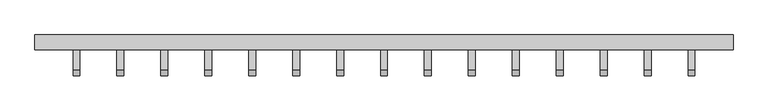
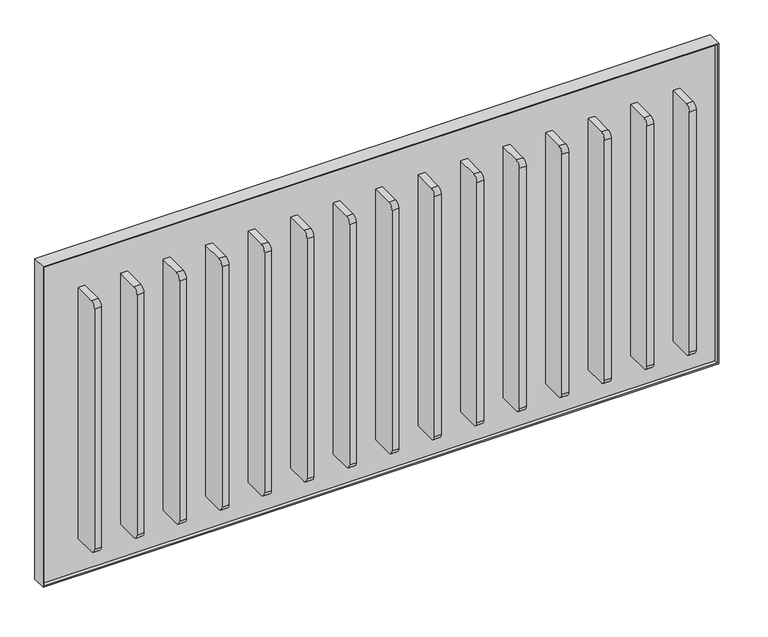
"""IFC4 building model written with IfcOpenShell, lengths in millimetres: proxy geometry, Frame_Cascade 11.3dm."""

from ifc_helpers import new_model, si_unit, point, frame, frame_2d, origin, place, context, project, spatial, polyline, circle_curve, trimmed, segment, composite_curve, outline, extrude, source, transform, mapped, element, save


def generic_models_37f9fb91(model_context):
    return source(origin(), model_context, "Body", "SweptSolid", [
        extrude(outline(polyline([(692.3576084, 2035.9814902), (1296.3576084, 2035.9814902), (1296.3576084, 831.9814902), (692.3576084, 831.9814902), (692.3576084, 2035.9814902)]), holes=[polyline([(694.3576084, 2033.9814902), (694.3576084, 833.9814902), (1294.3576084, 833.9814902), (1294.3576084, 2033.9814902), (694.3576084, 2033.9814902)])]), frame((0.0, 107.5568681, 0.0), z_axis=(0.0, 1.0, 0.0), x_axis=(0.0, 0.0, 1.0)), (0.0, 0.0, 1.0), 25.4),
        extrude(outline(polyline([(2033.9814902, 114.2568681), (833.9814902, 114.2568681), (833.9814902, 126.2568681), (2033.9814902, 126.2568681), (2033.9814902, 114.2568681)])), frame((0.0, 0.0, 694.3576084), z_axis=(0.0, 0.0, 1.0), x_axis=(1.0, 0.0, 0.0)), (0.0, 0.0, 1.0), 600.0),
        extrude(outline(composite_curve([segment(trimmed(circle_curve(frame_2d((72.7568681, 768.1076084)), 10.0), [point((72.7568681, 758.1076084))], [point((62.7568681, 768.1076084))], False, "CARTESIAN"), True, "CONTINUOUS"), segment(polyline([(62.7568681, 768.1076084), (62.7568681, 1220.6076084)]), True, "CONTINUOUS"), segment(trimmed(circle_curve(frame_2d((72.7568681, 1220.6076084)), 10.0), [point((62.7568681, 1220.6076084))], [point((72.7568681, 1230.6076084))], False, "CARTESIAN"), True, "CONTINUOUS"), segment(polyline([(72.7568681, 1230.6076084), (114.2568681, 1230.6076084), (114.2568681, 758.1076084), (72.7568681, 758.1076084)]), True, "CONTINUOUS")], self_intersect=False)), frame((1200.7314902, 0.0, 0.0), z_axis=(1.0, 0.0, 0.0), x_axis=(0.0, 1.0, 0.0)), (0.0, 0.0, 1.0), 12.0),
        extrude(outline(composite_curve([segment(trimmed(circle_curve(frame_2d((72.7568681, 768.1076084)), 10.0), [point((72.7568681, 758.1076084))], [point((62.7568681, 768.1076084))], False, "CARTESIAN"), True, "CONTINUOUS"), segment(polyline([(62.7568681, 768.1076084), (62.7568681, 1220.6076084)]), True, "CONTINUOUS"), segment(trimmed(circle_curve(frame_2d((72.7568681, 1220.6076084)), 10.0), [point((62.7568681, 1220.6076084))], [point((72.7568681, 1230.6076084))], False, "CARTESIAN"), True, "CONTINUOUS"), segment(polyline([(72.7568681, 1230.6076084), (114.2568681, 1230.6076084), (114.2568681, 758.1076084), (72.7568681, 758.1076084)]), True, "CONTINUOUS")], self_intersect=False)), frame((1579.4814902, 0.0, 0.0), z_axis=(1.0, 0.0, 0.0), x_axis=(0.0, 1.0, 0.0)), (0.0, 0.0, 1.0), 12.0),
        extrude(outline(composite_curve([segment(trimmed(circle_curve(frame_2d((72.7568681, 768.1076084)), 10.0), [point((72.7568681, 758.1076084))], [point((62.7568681, 768.1076084))], False, "CARTESIAN"), True, "CONTINUOUS"), segment(polyline([(62.7568681, 768.1076084), (62.7568681, 1220.6076084)]), True, "CONTINUOUS"), segment(trimmed(circle_curve(frame_2d((72.7568681, 1220.6076084)), 10.0), [point((62.7568681, 1220.6076084))], [point((72.7568681, 1230.6076084))], False, "CARTESIAN"), True, "CONTINUOUS"), segment(polyline([(72.7568681, 1230.6076084), (114.2568681, 1230.6076084), (114.2568681, 758.1076084), (72.7568681, 758.1076084)]), True, "CONTINUOUS")], self_intersect=False)), frame((1958.2314902, 0.0, 0.0), z_axis=(1.0, 0.0, 0.0), x_axis=(0.0, 1.0, 0.0)), (0.0, 0.0, 1.0), 12.0),
        extrude(outline(composite_curve([segment(trimmed(circle_curve(frame_2d((72.7568681, 768.1076084)), 10.0), [point((72.7568681, 758.1076084))], [point((62.7568681, 768.1076084))], False, "CARTESIAN"), True, "CONTINUOUS"), segment(polyline([(62.7568681, 768.1076084), (62.7568681, 1220.6076084)]), True, "CONTINUOUS"), segment(trimmed(circle_curve(frame_2d((72.7568681, 1220.6076084)), 10.0), [point((62.7568681, 1220.6076084))], [point((72.7568681, 1230.6076084))], False, "CARTESIAN"), True, "CONTINUOUS"), segment(polyline([(72.7568681, 1230.6076084), (114.2568681, 1230.6076084), (114.2568681, 758.1076084), (72.7568681, 758.1076084)]), True, "CONTINUOUS")], self_intersect=False)), frame((1124.9814902, 0.0, 0.0), z_axis=(1.0, 0.0, 0.0), x_axis=(0.0, 1.0, 0.0)), (0.0, 0.0, 1.0), 12.0),
        extrude(outline(composite_curve([segment(trimmed(circle_curve(frame_2d((72.7568681, 768.1076084)), 10.0), [point((72.7568681, 758.1076084))], [point((62.7568681, 768.1076084))], False, "CARTESIAN"), True, "CONTINUOUS"), segment(polyline([(62.7568681, 768.1076084), (62.7568681, 1220.6076084)]), True, "CONTINUOUS"), segment(trimmed(circle_curve(frame_2d((72.7568681, 1220.6076084)), 10.0), [point((62.7568681, 1220.6076084))], [point((72.7568681, 1230.6076084))], False, "CARTESIAN"), True, "CONTINUOUS"), segment(polyline([(72.7568681, 1230.6076084), (114.2568681, 1230.6076084), (114.2568681, 758.1076084), (72.7568681, 758.1076084)]), True, "CONTINUOUS")], self_intersect=False)), frame((1503.7314902, 0.0, 0.0), z_axis=(1.0, 0.0, 0.0), x_axis=(0.0, 1.0, 0.0)), (0.0, 0.0, 1.0), 12.0),
        extrude(outline(composite_curve([segment(trimmed(circle_curve(frame_2d((72.7568681, 768.1076084)), 10.0), [point((72.7568681, 758.1076084))], [point((62.7568681, 768.1076084))], False, "CARTESIAN"), True, "CONTINUOUS"), segment(polyline([(62.7568681, 768.1076084), (62.7568681, 1220.6076084)]), True, "CONTINUOUS"), segment(trimmed(circle_curve(frame_2d((72.7568681, 1220.6076084)), 10.0), [point((62.7568681, 1220.6076084))], [point((72.7568681, 1230.6076084))], False, "CARTESIAN"), True, "CONTINUOUS"), segment(polyline([(72.7568681, 1230.6076084), (114.2568681, 1230.6076084), (114.2568681, 758.1076084), (72.7568681, 758.1076084)]), True, "CONTINUOUS")], self_intersect=False)), frame((1730.9814902, 0.0, 0.0), z_axis=(1.0, 0.0, 0.0), x_axis=(0.0, 1.0, 0.0)), (0.0, 0.0, 1.0), 12.0),
        extrude(outline(composite_curve([segment(trimmed(circle_curve(frame_2d((72.7568681, 768.1076084)), 10.0), [point((72.7568681, 758.1076084))], [point((62.7568681, 768.1076084))], False, "CARTESIAN"), True, "CONTINUOUS"), segment(polyline([(62.7568681, 768.1076084), (62.7568681, 1220.6076084)]), True, "CONTINUOUS"), segment(trimmed(circle_curve(frame_2d((72.7568681, 1220.6076084)), 10.0), [point((62.7568681, 1220.6076084))], [point((72.7568681, 1230.6076084))], False, "CARTESIAN"), True, "CONTINUOUS"), segment(polyline([(72.7568681, 1230.6076084), (114.2568681, 1230.6076084), (114.2568681, 758.1076084), (72.7568681, 758.1076084)]), True, "CONTINUOUS")], self_intersect=False)), frame((1655.2314902, 0.0, 0.0), z_axis=(1.0, 0.0, 0.0), x_axis=(0.0, 1.0, 0.0)), (0.0, 0.0, 1.0), 12.0),
        extrude(outline(composite_curve([segment(trimmed(circle_curve(frame_2d((72.7568681, 768.1076084)), 10.0), [point((72.7568681, 758.1076084))], [point((62.7568681, 768.1076084))], False, "CARTESIAN"), True, "CONTINUOUS"), segment(polyline([(62.7568681, 768.1076084), (62.7568681, 1220.6076084)]), True, "CONTINUOUS"), segment(trimmed(circle_curve(frame_2d((72.7568681, 1220.6076084)), 10.0), [point((62.7568681, 1220.6076084))], [point((72.7568681, 1230.6076084))], False, "CARTESIAN"), True, "CONTINUOUS"), segment(polyline([(72.7568681, 1230.6076084), (114.2568681, 1230.6076084), (114.2568681, 758.1076084), (72.7568681, 758.1076084)]), True, "CONTINUOUS")], self_intersect=False)), frame((1352.2314902, 0.0, 0.0), z_axis=(1.0, 0.0, 0.0), x_axis=(0.0, 1.0, 0.0)), (0.0, 0.0, 1.0), 12.0),
        extrude(outline(composite_curve([segment(trimmed(circle_curve(frame_2d((72.7568681, 768.1076084)), 10.0), [point((72.7568681, 758.1076084))], [point((62.7568681, 768.1076084))], False, "CARTESIAN"), True, "CONTINUOUS"), segment(polyline([(62.7568681, 768.1076084), (62.7568681, 1220.6076084)]), True, "CONTINUOUS"), segment(trimmed(circle_curve(frame_2d((72.7568681, 1220.6076084)), 10.0), [point((62.7568681, 1220.6076084))], [point((72.7568681, 1230.6076084))], False, "CARTESIAN"), True, "CONTINUOUS"), segment(polyline([(72.7568681, 1230.6076084), (114.2568681, 1230.6076084), (114.2568681, 758.1076084), (72.7568681, 758.1076084)]), True, "CONTINUOUS")], self_intersect=False)), frame((973.4814902, 0.0, 0.0), z_axis=(1.0, 0.0, 0.0), x_axis=(0.0, 1.0, 0.0)), (0.0, 0.0, 1.0), 12.0),
        extrude(outline(composite_curve([segment(trimmed(circle_curve(frame_2d((72.7568681, 768.1076084)), 10.0), [point((72.7568681, 758.1076084))], [point((62.7568681, 768.1076084))], False, "CARTESIAN"), True, "CONTINUOUS"), segment(polyline([(62.7568681, 768.1076084), (62.7568681, 1220.6076084)]), True, "CONTINUOUS"), segment(trimmed(circle_curve(frame_2d((72.7568681, 1220.6076084)), 10.0), [point((62.7568681, 1220.6076084))], [point((72.7568681, 1230.6076084))], False, "CARTESIAN"), True, "CONTINUOUS"), segment(polyline([(72.7568681, 1230.6076084), (114.2568681, 1230.6076084), (114.2568681, 758.1076084), (72.7568681, 758.1076084)]), True, "CONTINUOUS")], self_intersect=False)), frame((1276.4814902, 0.0, 0.0), z_axis=(1.0, 0.0, 0.0), x_axis=(0.0, 1.0, 0.0)), (0.0, 0.0, 1.0), 12.0),
        extrude(outline(composite_curve([segment(trimmed(circle_curve(frame_2d((72.7568681, 768.1076084)), 10.0), [point((72.7568681, 758.1076084))], [point((62.7568681, 768.1076084))], False, "CARTESIAN"), True, "CONTINUOUS"), segment(polyline([(62.7568681, 768.1076084), (62.7568681, 1220.6076084)]), True, "CONTINUOUS"), segment(trimmed(circle_curve(frame_2d((72.7568681, 1220.6076084)), 10.0), [point((62.7568681, 1220.6076084))], [point((72.7568681, 1230.6076084))], False, "CARTESIAN"), True, "CONTINUOUS"), segment(polyline([(72.7568681, 1230.6076084), (114.2568681, 1230.6076084), (114.2568681, 758.1076084), (72.7568681, 758.1076084)]), True, "CONTINUOUS")], self_intersect=False)), frame((1049.2314902, 0.0, 0.0), z_axis=(1.0, 0.0, 0.0), x_axis=(0.0, 1.0, 0.0)), (0.0, 0.0, 1.0), 12.0),
        extrude(outline(composite_curve([segment(trimmed(circle_curve(frame_2d((72.7568681, 768.1076084)), 10.0), [point((72.7568681, 758.1076084))], [point((62.7568681, 768.1076084))], False, "CARTESIAN"), True, "CONTINUOUS"), segment(polyline([(62.7568681, 768.1076084), (62.7568681, 1220.6076084)]), True, "CONTINUOUS"), segment(trimmed(circle_curve(frame_2d((72.7568681, 1220.6076084)), 10.0), [point((62.7568681, 1220.6076084))], [point((72.7568681, 1230.6076084))], False, "CARTESIAN"), True, "CONTINUOUS"), segment(polyline([(72.7568681, 1230.6076084), (114.2568681, 1230.6076084), (114.2568681, 758.1076084), (72.7568681, 758.1076084)]), True, "CONTINUOUS")], self_intersect=False)), frame((1427.9814902, 0.0, 0.0), z_axis=(1.0, 0.0, 0.0), x_axis=(0.0, 1.0, 0.0)), (0.0, 0.0, 1.0), 12.0),
        extrude(outline(composite_curve([segment(trimmed(circle_curve(frame_2d((72.7568681, 768.1076084)), 10.0), [point((72.7568681, 758.1076084))], [point((62.7568681, 768.1076084))], False, "CARTESIAN"), True, "CONTINUOUS"), segment(polyline([(62.7568681, 768.1076084), (62.7568681, 1220.6076084)]), True, "CONTINUOUS"), segment(trimmed(circle_curve(frame_2d((72.7568681, 1220.6076084)), 10.0), [point((62.7568681, 1220.6076084))], [point((72.7568681, 1230.6076084))], False, "CARTESIAN"), True, "CONTINUOUS"), segment(polyline([(72.7568681, 1230.6076084), (114.2568681, 1230.6076084), (114.2568681, 758.1076084), (72.7568681, 758.1076084)]), True, "CONTINUOUS")], self_intersect=False)), frame((1806.7314902, 0.0, 0.0), z_axis=(1.0, 0.0, 0.0), x_axis=(0.0, 1.0, 0.0)), (0.0, 0.0, 1.0), 12.0),
        extrude(outline(composite_curve([segment(trimmed(circle_curve(frame_2d((72.7568681, 768.1076084)), 10.0), [point((72.7568681, 758.1076084))], [point((62.7568681, 768.1076084))], False, "CARTESIAN"), True, "CONTINUOUS"), segment(polyline([(62.7568681, 768.1076084), (62.7568681, 1220.6076084)]), True, "CONTINUOUS"), segment(trimmed(circle_curve(frame_2d((72.7568681, 1220.6076084)), 10.0), [point((62.7568681, 1220.6076084))], [point((72.7568681, 1230.6076084))], False, "CARTESIAN"), True, "CONTINUOUS"), segment(polyline([(72.7568681, 1230.6076084), (114.2568681, 1230.6076084), (114.2568681, 758.1076084), (72.7568681, 758.1076084)]), True, "CONTINUOUS")], self_intersect=False)), frame((1882.4814902, 0.0, 0.0), z_axis=(1.0, 0.0, 0.0), x_axis=(0.0, 1.0, 0.0)), (0.0, 0.0, 1.0), 12.0),
        extrude(outline(composite_curve([segment(trimmed(circle_curve(frame_2d((72.7568681, 768.1076084)), 10.0), [point((72.7568681, 758.1076084))], [point((62.7568681, 768.1076084))], False, "CARTESIAN"), True, "CONTINUOUS"), segment(polyline([(62.7568681, 768.1076084), (62.7568681, 1220.6076084)]), True, "CONTINUOUS"), segment(trimmed(circle_curve(frame_2d((72.7568681, 1220.6076084)), 10.0), [point((62.7568681, 1220.6076084))], [point((72.7568681, 1230.6076084))], False, "CARTESIAN"), True, "CONTINUOUS"), segment(polyline([(72.7568681, 1230.6076084), (114.2568681, 1230.6076084), (114.2568681, 758.1076084), (72.7568681, 758.1076084)]), True, "CONTINUOUS")], self_intersect=False)), frame((897.7314902, 0.0, 0.0), z_axis=(1.0, 0.0, 0.0), x_axis=(0.0, 1.0, 0.0)), (0.0, 0.0, 1.0), 12.0),
    ])


if __name__ == "__main__":
    model = new_model("IFC4")
    model_context = context("Model", 3, world=origin())
    ifc_project = project(units=[si_unit("LENGTHUNIT", "METRE", prefix="MILLI")], contexts=[model_context])
    site = spatial("IfcSite", under=ifc_project)
    building = spatial("IfcBuilding", under=site)
    placement = place(None, origin())
    generic_models_shape = generic_models_37f9fb91(model_context)
    element("IfcBuildingElementProxy", 1, Name="Frame_Cascade 11.3dm", ObjectType="Frame_Cascade 11.3dm", at=placement, inside=building, context=model_context, shape_type="MappedRepresentation", body=[
        mapped(generic_models_shape, transform((0.0, 0.0, 0.0), x_axis=(1.0, 0.0, 0.0), y_axis=(0.0, 1.0, 0.0), z_axis=(0.0, 0.0, 1.0))),
    ])
    save(model, "model.ifc")
